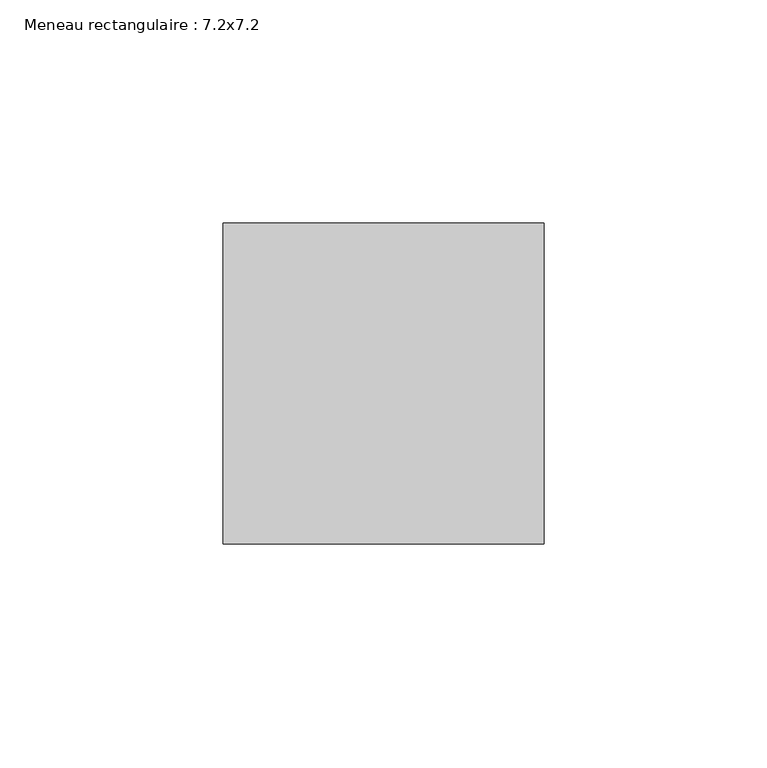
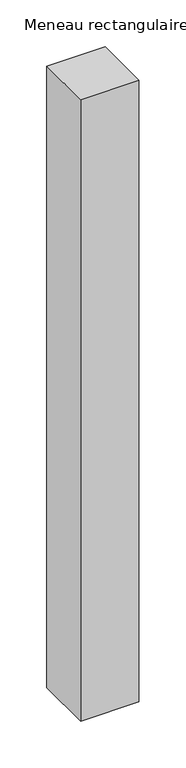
"""IFC4 building model written with IfcOpenShell, lengths in millimetres: member geometry, Meneau rectangulaire : 7.2x7.2."""

import ifcopenshell
import ifcopenshell.guid

model = None  # the IFC model being written
_history = None  # IfcOwnerHistory: only IFC2X3 demands one
_inside = {}  # id of a spatial element -> (the spatial element, [elements in it])
_under = {}  # id of a project, library or spatial element -> (it, [spatial elements below it])
_declared = {}  # id of a project -> (the project, [libraries it declares])
_typed = {}  # id of a type object -> (the type object, [elements of that type])
_made_of = {}  # id of a material, layer set ... -> (it, [elements and type objects made of it])


def new_model(schema):
    """Start an empty IFC model of exactly this schema.

    Asked for "IFC4X3", IfcOpenShell would pick the latest addendum, in which some entities
    have other attributes; the version numbers below select the first issue.
    IFC2X3 requires an IfcOwnerHistory on every rooted entity: one is made here for all.
    """
    global model, _history
    if schema == "IFC4X3":
        model = ifcopenshell.file(schema_version=(4, 3, 0, 0))
    else:
        model = ifcopenshell.file(schema=schema)
    _inside.clear()
    _under.clear()
    _declared.clear()
    _typed.clear()
    _made_of.clear()
    _history = None
    if model.schema == "IFC2X3":
        org = make("IfcOrganization", Name="unknown")
        user = make(
            "IfcPersonAndOrganization",
            ThePerson=make("IfcPerson", FamilyName="unknown"),
            TheOrganization=org,
        )
        app = make(
            "IfcApplication",
            ApplicationDeveloper=org,
            Version="unknown",
            ApplicationFullName="unknown",
            ApplicationIdentifier="unknown",
        )
        _history = make(
            "IfcOwnerHistory",
            OwningUser=user,
            OwningApplication=app,
            ChangeAction="ADDED",
            CreationDate=0,
        )
    return model


def make(cls, **values):
    """One entity of the class cls with the attributes given. An attribute that is None is left unset."""
    return model.create_entity(
        cls, **{name: value for name, value in values.items() if value is not None}
    )


def rooted(cls, **values):
    """An entity with a GlobalId (a new one), such as an element, a storey or a relation."""
    return make(cls, GlobalId=ifcopenshell.guid.new(), OwnerHistory=_history, **values)


def si_unit(unit_type, name, prefix=None):
    """IfcSIUnit, for example si_unit("LENGTHUNIT", "METRE", prefix="MILLI")."""
    return make("IfcSIUnit", UnitType=unit_type, Prefix=prefix, Name=name)


def assignment(units):
    """IfcUnitAssignment: the units of a project."""
    return None if units is None else make("IfcUnitAssignment", Units=units)


def point(xyz):
    """IfcCartesianPoint."""
    return None if xyz is None else make("IfcCartesianPoint", Coordinates=xyz)


def direction(xyz):
    """IfcDirection."""
    return None if xyz is None else make("IfcDirection", DirectionRatios=xyz)


def frame(location, z_axis=None, x_axis=None):
    """IfcAxis2Placement3D, a coordinate frame: its origin and axes. An axis left out is left unset."""
    return make(
        "IfcAxis2Placement3D",
        Location=point(location),
        Axis=direction(z_axis),
        RefDirection=direction(x_axis),
    )


def origin():
    """The frame at (0, 0, 0) with its axes left unset."""
    return frame((0.0, 0.0, 0.0))


def place(relative_to, where):
    """IfcLocalPlacement: puts the frame where relative to a parent placement (None: the world)."""
    return make(
        "IfcLocalPlacement", PlacementRelTo=relative_to, RelativePlacement=where
    )


def context(
    kind, dimensions, precision=None, world=None, true_north=None, identifier=None
):
    """IfcGeometricRepresentationContext, for example the 3D "Model" context."""
    return make(
        "IfcGeometricRepresentationContext",
        ContextIdentifier=identifier,
        ContextType=kind,
        CoordinateSpaceDimension=dimensions,
        Precision=precision,
        WorldCoordinateSystem=world,
        TrueNorth=true_north,
    )


def project(units=None, contexts=None):
    """IfcProject with its units and contexts."""
    return rooted(
        "IfcProject",
        Name="project",
        RepresentationContexts=contexts,
        UnitsInContext=assignment(units),
    )


def spatial(cls, under=None, at=None, **own):
    """A site, building, storey or space (cls), placed at a placement, below another one or the project."""
    s = rooted(cls, ObjectPlacement=at, **own)
    if under is not None:
        _under.setdefault(under.id(), (under, []))[1].append(s)
    return s


def polyline(points):
    """IfcPolyline through the points."""
    return make("IfcPolyline", Points=[point(p) for p in points])


def outline(outer, holes=None, kind="AREA"):
    """IfcArbitraryClosedProfileDef: a profile drawn as a closed curve; with holes, ...WithVoids."""
    if holes is None:
        return make("IfcArbitraryClosedProfileDef", ProfileType=kind, OuterCurve=outer)
    return make(
        "IfcArbitraryProfileDefWithVoids",
        ProfileType=kind,
        OuterCurve=outer,
        InnerCurves=holes,
    )


def extrude(swept, where, along, depth):
    """IfcExtrudedAreaSolid: the profile swept, set in the frame where, extruded along a direction by depth."""
    return make(
        "IfcExtrudedAreaSolid",
        SweptArea=swept,
        Position=where,
        ExtrudedDirection=direction(along),
        Depth=depth,
    )


def shape(context_of_items, identifier, shape_type, items):
    """IfcShapeRepresentation: the items that make up one representation, for example the "Body"."""
    return make(
        "IfcShapeRepresentation",
        ContextOfItems=context_of_items,
        RepresentationIdentifier=identifier,
        RepresentationType=shape_type,
        Items=items,
    )


def source(mapping_origin, context_of_items, identifier, shape_type, items):
    """IfcRepresentationMap: a shape defined once, which mapped items show again and again."""
    return make(
        "IfcRepresentationMap",
        MappingOrigin=mapping_origin,
        MappedRepresentation=shape(context_of_items, identifier, shape_type, items),
    )


def transform(
    local_origin,
    x_axis=None,
    y_axis=None,
    z_axis=None,
    scale=None,
    scale2=None,
    scale3=None,
    uniform=True,
):
    """IfcCartesianTransformationOperator3D, or its non-uniform kind. x_axis, y_axis, z_axis: its Axis1, 2, 3."""
    if uniform:
        return make(
            "IfcCartesianTransformationOperator3D",
            Axis1=direction(x_axis),
            Axis2=direction(y_axis),
            LocalOrigin=point(local_origin),
            Scale=scale,
            Axis3=direction(z_axis),
        )
    return make(
        "IfcCartesianTransformationOperator3DnonUniform",
        Axis1=direction(x_axis),
        Axis2=direction(y_axis),
        LocalOrigin=point(local_origin),
        Scale=scale,
        Axis3=direction(z_axis),
        Scale2=scale2,
        Scale3=scale3,
    )


def mapped(mapping_source, mapping_target):
    """IfcMappedItem: shows the shape of a source again, moved by a transform."""
    return make(
        "IfcMappedItem", MappingSource=mapping_source, MappingTarget=mapping_target
    )


def made_of(thing, what):
    """Note that an element or type object is made of a material, layer set ...; save() writes the relation."""
    if what is not None:
        _made_of.setdefault(what.id(), (what, []))[1].append(thing)
    return thing


def element(
    cls,
    number,
    at=None,
    inside=None,
    cuts=None,
    type_object=None,
    material=None,
    context=None,
    identifier="Body",
    shape_type=None,
    held_by="IfcProductDefinitionShape",
    body=None,
    shapes=None,
    **own,
):
    """One element of the class cls, such as IfcWall. Its Tag is "e" and its number.

    at: its placement. inside: the storey or other place that contains it. cuts: it is an
    opening in that element (IfcRelVoidsElement). A single representation is given by context,
    identifier, shape_type and body (its items); several are given by shapes. held_by: the class
    of the entity that holds the representations. save() writes the other relations.
    """
    e = rooted(cls, Tag="e%d" % number, ObjectPlacement=at, **own)
    if body is not None:
        shapes = [shape(context, identifier, shape_type, body)]
    if shapes is not None:
        e.Representation = make(held_by, Representations=shapes)
    if inside is not None:
        _inside.setdefault(inside.id(), (inside, []))[1].append(e)
    if cuts is not None:
        rooted(
            "IfcRelVoidsElement", RelatingBuildingElement=cuts, RelatedOpeningElement=e
        )
    if type_object is not None:
        _typed.setdefault(type_object.id(), (type_object, []))[1].append(e)
    return made_of(e, material)


def aggregate(whole, parts):
    """IfcRelAggregates: a whole, such as a stair, and the parts it consists of."""
    return rooted("IfcRelAggregates", RelatingObject=whole, RelatedObjects=parts)


def save(model, path):
    """Write the relations noted so far, then the file.

    IfcRelAggregates (storeys below a building ...), IfcRelContainedInSpatialStructure (elements
    in a storey), IfcRelDefinesByType, IfcRelAssociatesMaterial and IfcRelDeclares: one each for
    every whole, place, type object, material and project.
    """
    for whole, parts in _under.values():
        aggregate(whole, parts)
    for where, things in _inside.values():
        rooted(
            "IfcRelContainedInSpatialStructure",
            RelatedElements=things,
            RelatingStructure=where,
        )
    for kind, things in _typed.values():
        rooted("IfcRelDefinesByType", RelatedObjects=things, RelatingType=kind)
    for what, things in _made_of.values():
        rooted("IfcRelAssociatesMaterial", RelatedObjects=things, RelatingMaterial=what)
    for by, libraries in _declared.values():
        rooted("IfcRelDeclares", RelatingContext=by, RelatedDefinitions=libraries)
    model.write(path)


def meneau_rectangulaire_7_2x7_2_c40cce64(model_context):
    return source(origin(), model_context, "Body", "SweptSolid", [
        extrude(outline(polyline([(0.0, 36.0), (0.0, -36.0), (-72.0, -36.0), (-72.0, 36.0), (0.0, 36.0)])), frame((0.0, 0.0, -810.0), z_axis=(0.0, 0.0, 1.0), x_axis=(1.0, 0.0, 0.0)), (0.0, 0.0, 1.0), 810.0),
    ])


if __name__ == "__main__":
    model = new_model("IFC4")
    model_context = context("Model", 3, world=origin())
    ifc_project = project(units=[si_unit("LENGTHUNIT", "METRE", prefix="MILLI")], contexts=[model_context])
    site = spatial("IfcSite", under=ifc_project)
    building = spatial("IfcBuilding", under=site)
    placement = place(None, origin())
    meneau_rectangulaire_7_2x7_2_shape = meneau_rectangulaire_7_2x7_2_c40cce64(model_context)
    element("IfcMember", 1, ObjectType="Meneau rectangulaire : 7.2x7.2", at=placement, inside=building, context=model_context, shape_type="MappedRepresentation", body=[
        mapped(meneau_rectangulaire_7_2x7_2_shape, transform((0.0, 0.0, 0.0), x_axis=(1.0, 0.0, 0.0), y_axis=(0.0, 1.0, 0.0), z_axis=(0.0, 0.0, 1.0))),
    ])
    save(model, "model.ifc")
